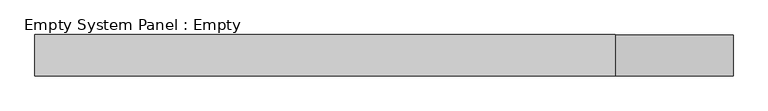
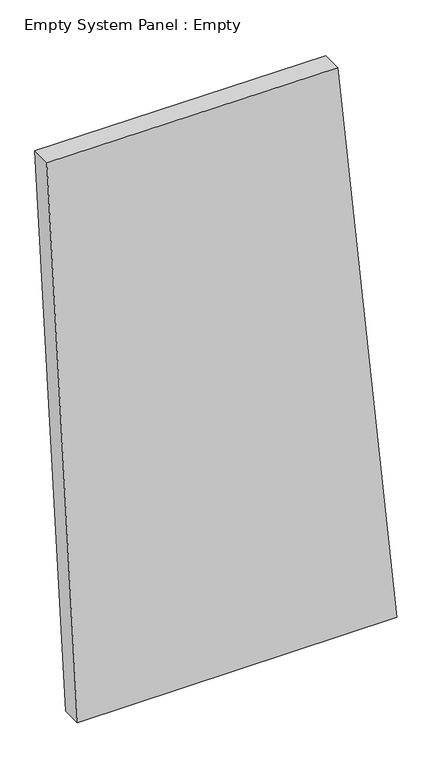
"""IFC4 building model written with IfcOpenShell, lengths in millimetres: plate geometry, Empty System Panel : Empty."""

import ifcopenshell
import ifcopenshell.guid

model = None  # the IFC model being written
_history = None  # IfcOwnerHistory: only IFC2X3 demands one
_inside = {}  # id of a spatial element -> (the spatial element, [elements in it])
_under = {}  # id of a project, library or spatial element -> (it, [spatial elements below it])
_declared = {}  # id of a project -> (the project, [libraries it declares])
_typed = {}  # id of a type object -> (the type object, [elements of that type])
_made_of = {}  # id of a material, layer set ... -> (it, [elements and type objects made of it])


def new_model(schema):
    """Start an empty IFC model of exactly this schema.

    Asked for "IFC4X3", IfcOpenShell would pick the latest addendum, in which some entities
    have other attributes; the version numbers below select the first issue.
    IFC2X3 requires an IfcOwnerHistory on every rooted entity: one is made here for all.
    """
    global model, _history
    if schema == "IFC4X3":
        model = ifcopenshell.file(schema_version=(4, 3, 0, 0))
    else:
        model = ifcopenshell.file(schema=schema)
    _inside.clear()
    _under.clear()
    _declared.clear()
    _typed.clear()
    _made_of.clear()
    _history = None
    if model.schema == "IFC2X3":
        org = make("IfcOrganization", Name="unknown")
        user = make(
            "IfcPersonAndOrganization",
            ThePerson=make("IfcPerson", FamilyName="unknown"),
            TheOrganization=org,
        )
        app = make(
            "IfcApplication",
            ApplicationDeveloper=org,
            Version="unknown",
            ApplicationFullName="unknown",
            ApplicationIdentifier="unknown",
        )
        _history = make(
            "IfcOwnerHistory",
            OwningUser=user,
            OwningApplication=app,
            ChangeAction="ADDED",
            CreationDate=0,
        )
    return model


def make(cls, **values):
    """One entity of the class cls with the attributes given. An attribute that is None is left unset."""
    return model.create_entity(
        cls, **{name: value for name, value in values.items() if value is not None}
    )


def rooted(cls, **values):
    """An entity with a GlobalId (a new one), such as an element, a storey or a relation."""
    return make(cls, GlobalId=ifcopenshell.guid.new(), OwnerHistory=_history, **values)


def si_unit(unit_type, name, prefix=None):
    """IfcSIUnit, for example si_unit("LENGTHUNIT", "METRE", prefix="MILLI")."""
    return make("IfcSIUnit", UnitType=unit_type, Prefix=prefix, Name=name)


def assignment(units):
    """IfcUnitAssignment: the units of a project."""
    return None if units is None else make("IfcUnitAssignment", Units=units)


def point(xyz):
    """IfcCartesianPoint."""
    return None if xyz is None else make("IfcCartesianPoint", Coordinates=xyz)


def direction(xyz):
    """IfcDirection."""
    return None if xyz is None else make("IfcDirection", DirectionRatios=xyz)


def frame(location, z_axis=None, x_axis=None):
    """IfcAxis2Placement3D, a coordinate frame: its origin and axes. An axis left out is left unset."""
    return make(
        "IfcAxis2Placement3D",
        Location=point(location),
        Axis=direction(z_axis),
        RefDirection=direction(x_axis),
    )


def origin():
    """The frame at (0, 0, 0) with its axes left unset."""
    return frame((0.0, 0.0, 0.0))


def place(relative_to, where):
    """IfcLocalPlacement: puts the frame where relative to a parent placement (None: the world)."""
    return make(
        "IfcLocalPlacement", PlacementRelTo=relative_to, RelativePlacement=where
    )


def context(
    kind, dimensions, precision=None, world=None, true_north=None, identifier=None
):
    """IfcGeometricRepresentationContext, for example the 3D "Model" context."""
    return make(
        "IfcGeometricRepresentationContext",
        ContextIdentifier=identifier,
        ContextType=kind,
        CoordinateSpaceDimension=dimensions,
        Precision=precision,
        WorldCoordinateSystem=world,
        TrueNorth=true_north,
    )


def project(units=None, contexts=None):
    """IfcProject with its units and contexts."""
    return rooted(
        "IfcProject",
        Name="project",
        RepresentationContexts=contexts,
        UnitsInContext=assignment(units),
    )


def spatial(cls, under=None, at=None, **own):
    """A site, building, storey or space (cls), placed at a placement, below another one or the project."""
    s = rooted(cls, ObjectPlacement=at, **own)
    if under is not None:
        _under.setdefault(under.id(), (under, []))[1].append(s)
    return s


def polyline(points):
    """IfcPolyline through the points."""
    return make("IfcPolyline", Points=[point(p) for p in points])


def outline(outer, holes=None, kind="AREA"):
    """IfcArbitraryClosedProfileDef: a profile drawn as a closed curve; with holes, ...WithVoids."""
    if holes is None:
        return make("IfcArbitraryClosedProfileDef", ProfileType=kind, OuterCurve=outer)
    return make(
        "IfcArbitraryProfileDefWithVoids",
        ProfileType=kind,
        OuterCurve=outer,
        InnerCurves=holes,
    )


def extrude(swept, where, along, depth):
    """IfcExtrudedAreaSolid: the profile swept, set in the frame where, extruded along a direction by depth."""
    return make(
        "IfcExtrudedAreaSolid",
        SweptArea=swept,
        Position=where,
        ExtrudedDirection=direction(along),
        Depth=depth,
    )


def shape(context_of_items, identifier, shape_type, items):
    """IfcShapeRepresentation: the items that make up one representation, for example the "Body"."""
    return make(
        "IfcShapeRepresentation",
        ContextOfItems=context_of_items,
        RepresentationIdentifier=identifier,
        RepresentationType=shape_type,
        Items=items,
    )


def source(mapping_origin, context_of_items, identifier, shape_type, items):
    """IfcRepresentationMap: a shape defined once, which mapped items show again and again."""
    return make(
        "IfcRepresentationMap",
        MappingOrigin=mapping_origin,
        MappedRepresentation=shape(context_of_items, identifier, shape_type, items),
    )


def transform(
    local_origin,
    x_axis=None,
    y_axis=None,
    z_axis=None,
    scale=None,
    scale2=None,
    scale3=None,
    uniform=True,
):
    """IfcCartesianTransformationOperator3D, or its non-uniform kind. x_axis, y_axis, z_axis: its Axis1, 2, 3."""
    if uniform:
        return make(
            "IfcCartesianTransformationOperator3D",
            Axis1=direction(x_axis),
            Axis2=direction(y_axis),
            LocalOrigin=point(local_origin),
            Scale=scale,
            Axis3=direction(z_axis),
        )
    return make(
        "IfcCartesianTransformationOperator3DnonUniform",
        Axis1=direction(x_axis),
        Axis2=direction(y_axis),
        LocalOrigin=point(local_origin),
        Scale=scale,
        Axis3=direction(z_axis),
        Scale2=scale2,
        Scale3=scale3,
    )


def mapped(mapping_source, mapping_target):
    """IfcMappedItem: shows the shape of a source again, moved by a transform."""
    return make(
        "IfcMappedItem", MappingSource=mapping_source, MappingTarget=mapping_target
    )


def made_of(thing, what):
    """Note that an element or type object is made of a material, layer set ...; save() writes the relation."""
    if what is not None:
        _made_of.setdefault(what.id(), (what, []))[1].append(thing)
    return thing


def element(
    cls,
    number,
    at=None,
    inside=None,
    cuts=None,
    type_object=None,
    material=None,
    context=None,
    identifier="Body",
    shape_type=None,
    held_by="IfcProductDefinitionShape",
    body=None,
    shapes=None,
    **own,
):
    """One element of the class cls, such as IfcWall. Its Tag is "e" and its number.

    at: its placement. inside: the storey or other place that contains it. cuts: it is an
    opening in that element (IfcRelVoidsElement). A single representation is given by context,
    identifier, shape_type and body (its items); several are given by shapes. held_by: the class
    of the entity that holds the representations. save() writes the other relations.
    """
    e = rooted(cls, Tag="e%d" % number, ObjectPlacement=at, **own)
    if body is not None:
        shapes = [shape(context, identifier, shape_type, body)]
    if shapes is not None:
        e.Representation = make(held_by, Representations=shapes)
    if inside is not None:
        _inside.setdefault(inside.id(), (inside, []))[1].append(e)
    if cuts is not None:
        rooted(
            "IfcRelVoidsElement", RelatingBuildingElement=cuts, RelatedOpeningElement=e
        )
    if type_object is not None:
        _typed.setdefault(type_object.id(), (type_object, []))[1].append(e)
    return made_of(e, material)


def aggregate(whole, parts):
    """IfcRelAggregates: a whole, such as a stair, and the parts it consists of."""
    return rooted("IfcRelAggregates", RelatingObject=whole, RelatedObjects=parts)


def save(model, path):
    """Write the relations noted so far, then the file.

    IfcRelAggregates (storeys below a building ...), IfcRelContainedInSpatialStructure (elements
    in a storey), IfcRelDefinesByType, IfcRelAssociatesMaterial and IfcRelDeclares: one each for
    every whole, place, type object, material and project.
    """
    for whole, parts in _under.values():
        aggregate(whole, parts)
    for where, things in _inside.values():
        rooted(
            "IfcRelContainedInSpatialStructure",
            RelatedElements=things,
            RelatingStructure=where,
        )
    for kind, things in _typed.values():
        rooted("IfcRelDefinesByType", RelatedObjects=things, RelatingType=kind)
    for what, things in _made_of.values():
        rooted("IfcRelAssociatesMaterial", RelatedObjects=things, RelatingMaterial=what)
    for by, libraries in _declared.values():
        rooted("IfcRelDeclares", RelatingContext=by, RelatedDefinitions=libraries)
    model.write(path)


def empty_system_panel_empty_0e524067(model_context):
    return source(origin(), model_context, "Body", "SweptSolid", [
        extrude(outline(polyline([(0.0, -709.4638002), (0.0, 859.848079), (2957.2946115, 569.5233778), (2964.3237678, -859.848079), (0.0, -709.4638002)])), frame((0.0, -50.8, 0.0), z_axis=(0.0, 1.0, 0.0), x_axis=(0.0, 0.0, 1.0)), (0.0, 0.0, 1.0), 101.6),
    ])


if __name__ == "__main__":
    model = new_model("IFC4")
    model_context = context("Model", 3, world=origin())
    ifc_project = project(units=[si_unit("LENGTHUNIT", "METRE", prefix="MILLI")], contexts=[model_context])
    site = spatial("IfcSite", under=ifc_project)
    building = spatial("IfcBuilding", under=site)
    placement = place(None, origin())
    empty_system_panel_empty_shape = empty_system_panel_empty_0e524067(model_context)
    element("IfcPlate", 1, ObjectType="Empty System Panel : Empty", at=placement, inside=building, context=model_context, shape_type="MappedRepresentation", body=[
        mapped(empty_system_panel_empty_shape, transform((0.0, 0.0, 0.0), x_axis=(1.0, 0.0, 0.0), y_axis=(0.0, 1.0, 0.0), z_axis=(0.0, 0.0, 1.0))),
    ])
    save(model, "model.ifc")
